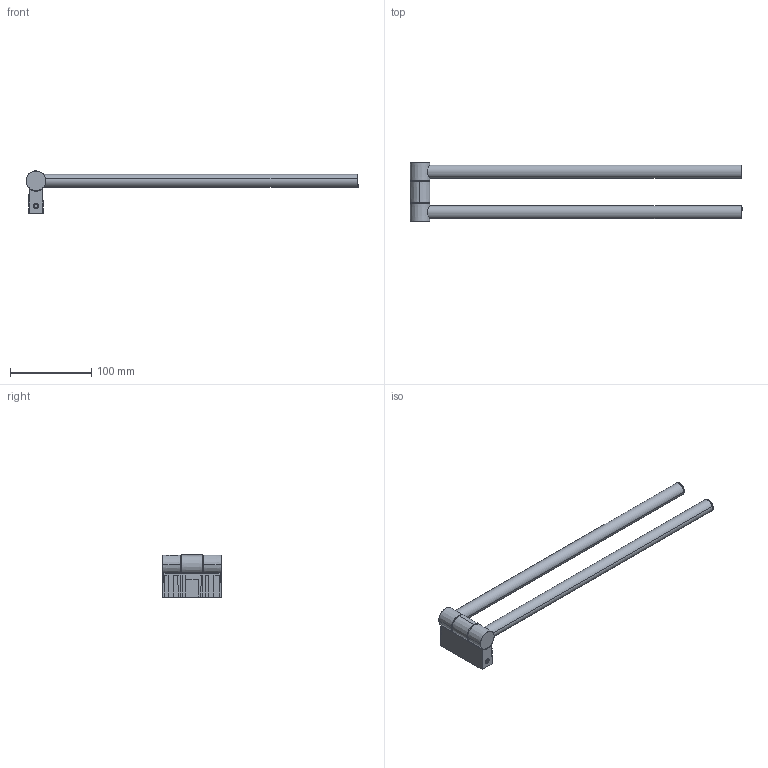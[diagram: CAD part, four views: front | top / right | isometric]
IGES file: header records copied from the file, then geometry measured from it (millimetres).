
Start section: SolidWorks IGES file using analytic representation for surfaces
Global section: file name: G:\Projects\New project\For Marketing\IGS\IGS\2015-10-22\2510175VW.IGS; native system: SolidWorks 2010; preprocessor: SolidWorks 2010; author: linda; date: 151013.134326; units: millimetre
Bounding box: 407.74 x 72.53 x 51.75 mm (x, y, z)
Surface area: 61453.3 mm2 (no closed solid volume)
Topology: 0 solids, 0 shells, 191 faces, 2621 edges, 2621 vertices
Faces by surface type: revolution 100, bspline 91
